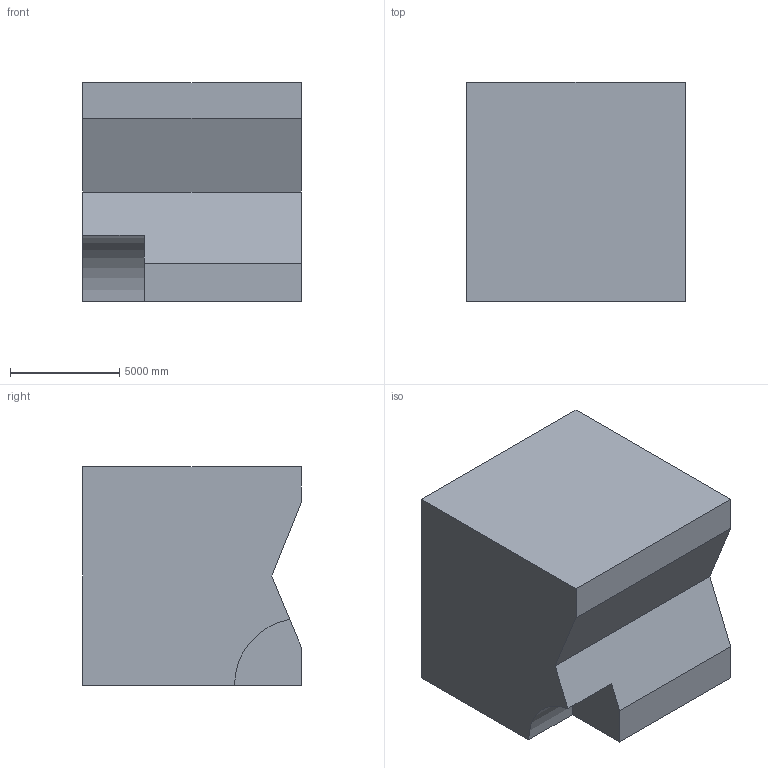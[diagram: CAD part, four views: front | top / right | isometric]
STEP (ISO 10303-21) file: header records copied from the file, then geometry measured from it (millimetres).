
FILE_DESCRIPTION (( 'STEP AP203' ), '1' );
FILE_NAME ('15.STEP', '2022-08-31T11:10:02', ( 'user' ), ( '' ), 'SwSTEP 2.0', 'SolidWorks 2021', '' );
FILE_SCHEMA (( 'CONFIG_CONTROL_DESIGN' ));
Length unit declared in the file: centimetre
Products named in the file (1): 15
Bounding box: 10000 x 10000 x 10000 mm (x, y, z)
Volume: 935601397252.7 mm3; surface area: 591000218.4 mm2
Topology: 1 solids, 1 shells, 11 faces, 27 edges, 18 vertices
Faces by surface type: plane 10, cylinder 1
Entity records: 400 total; most frequent: CARTESIAN_POINT 57, ORIENTED_EDGE 54, DIRECTION 53, EDGE_CURVE 27, LINE 25, VECTOR 25, VERTEX_POINT 18, AXIS2_PLACEMENT_3D 14
